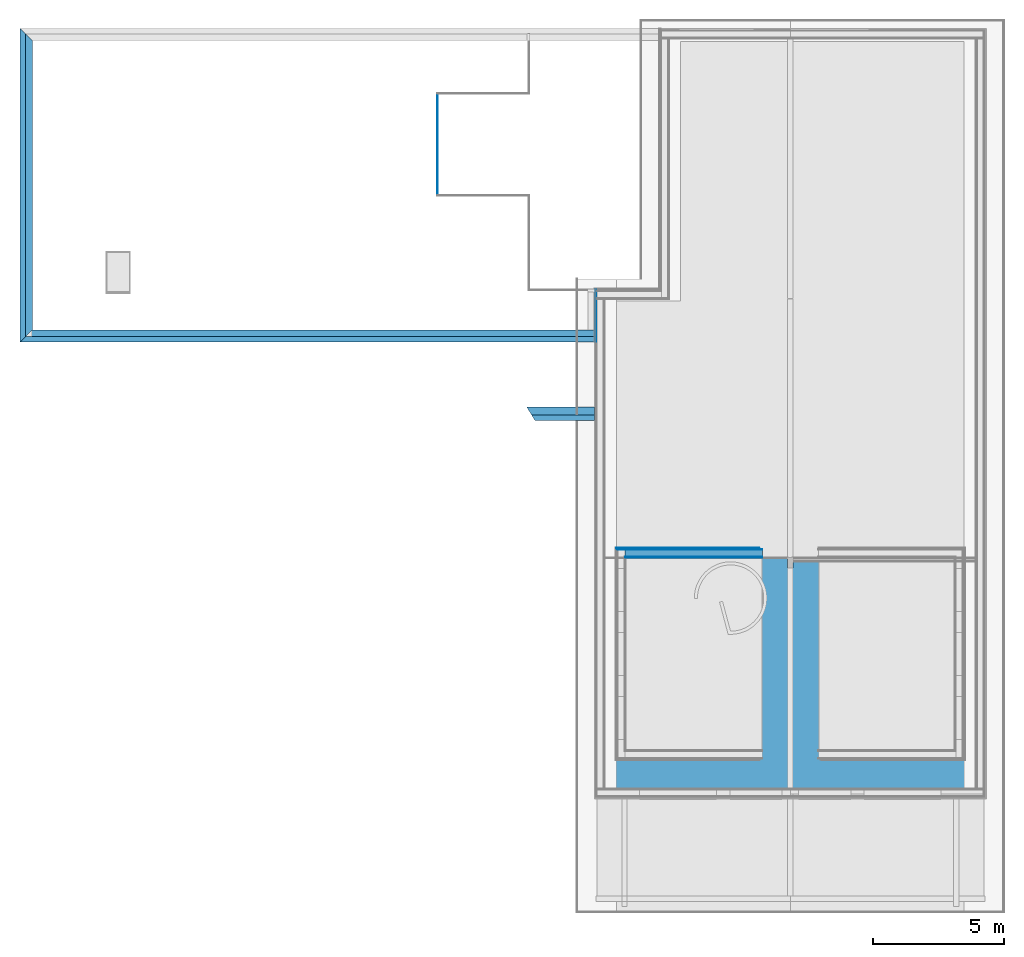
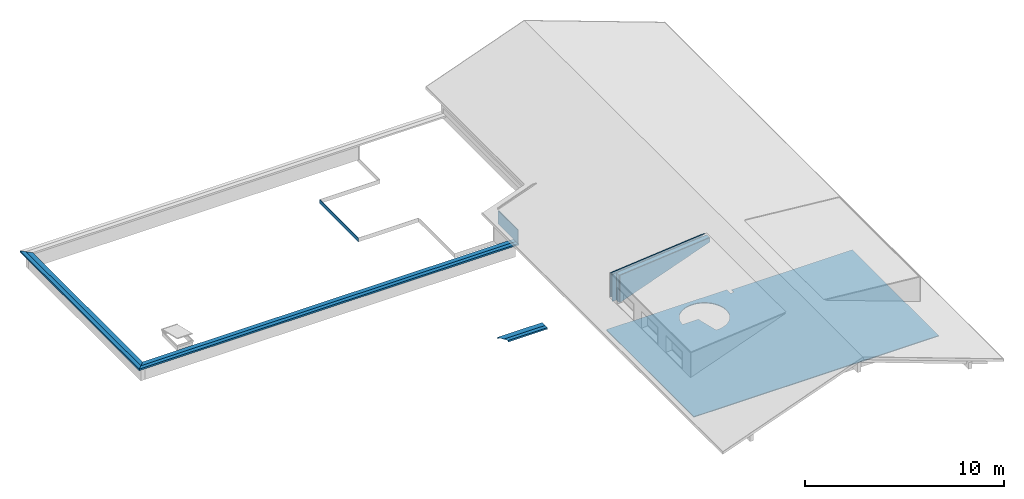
# One storey, part 5 of 12: 17 building element parts, 1 discrete accessory, 7 elements without a shape of their own.
"""IFC4 building model written with IfcOpenShell, lengths in millimetres."""

from ifc_helpers import new_model, entity, si_unit, converted_unit, derived_unit, direction, frame, origin_with_axes, place, context, subcontext, project, spatial, polygons, material, type_object, element, aggregate, save


model = new_model("IFC4")

# Units and contexts
model_context = context("Model", 3, precision=0.01, world=origin_with_axes(), true_north=direction((0.0, 1.0)))
body_context = subcontext(model_context, "Body", "Model", "MODEL_VIEW")
ifc_project = project(units=[si_unit("LENGTHUNIT", "METRE", prefix="MILLI"), si_unit("AREAUNIT", "SQUARE_METRE"), si_unit("VOLUMEUNIT", "CUBIC_METRE"), converted_unit("PLANEANGLEUNIT", "DEGREE", entity("IfcPlaneAngleMeasure", 0.0174532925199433), si_unit("PLANEANGLEUNIT", "RADIAN"), dimensions=[0, 0, 0, 0, 0, 0, 0]), converted_unit("TIMEUNIT", "Year", entity("IfcTimeMeasure", 31557600.0), si_unit("TIMEUNIT", "SECOND"), dimensions=[0, 0, 1, 0, 0, 0, 0]), si_unit("MASSUNIT", "GRAM", prefix="KILO"), si_unit("THERMODYNAMICTEMPERATUREUNIT", "DEGREE_CELSIUS"), si_unit("LUMINOUSINTENSITYUNIT", "LUMEN"), si_unit("ENERGYUNIT", "JOULE", prefix="MEGA"), derived_unit("THERMALCONDUCTANCEUNIT", [(si_unit("POWERUNIT", "WATT"), 1), (si_unit("LENGTHUNIT", "METRE"), -1), (si_unit("THERMODYNAMICTEMPERATUREUNIT", "KELVIN"), -1)]), derived_unit("SPECIFICHEATCAPACITYUNIT", [(si_unit("ENERGYUNIT", "JOULE"), 1), (si_unit("MASSUNIT", "GRAM", prefix="KILO"), -1), (si_unit("THERMODYNAMICTEMPERATUREUNIT", "KELVIN"), -1)]), derived_unit("MASSDENSITYUNIT", [(si_unit("MASSUNIT", "GRAM", prefix="KILO"), 1), (si_unit("VOLUMEUNIT", "CUBIC_METRE"), -1)])], contexts=[model_context])

# Site, building, storey
site_placement = place(None, origin_with_axes())
site = spatial("IfcSite", under=ifc_project, at=site_placement, Name="Gelände", CompositionType="ELEMENT")
building_placement = place(site_placement, origin_with_axes())
building = spatial("IfcBuilding", under=site, at=building_placement, Name="Gebäude", CompositionType="ELEMENT")
storey_placement = place(building_placement, frame((0.0, 0.0, 11600.0), z_axis=(0.0, 0.0, 1.0), x_axis=(1.0, 0.0, 0.0)))
storey = spatial("IfcBuildingStorey", under=building, at=storey_placement, Name="Dachaufsicht", CompositionType="ELEMENT", Elevation=11600.0)

# Discrete accessory
ifc_material_1 = material(Name="Bewehrung")
discrete_accessory_type = type_object("IfcDiscreteAccessoryType", Name="Bewehrung 20 x 250", PredefinedType="NOTDEFINED")
discrete_accessory_placement = place(storey_placement, frame((11928.99744477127, 35447.5972813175, -5.198845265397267e-05), z_axis=(0.0, 0.0, 1.0), x_axis=(-1.0, 0.0, 0.0)))
element("IfcDiscreteAccessory", 1, at=discrete_accessory_placement, inside=storey, type_object=discrete_accessory_type, material=ifc_material_1, Name="Unterzug-029", PredefinedType="NOTDEFINED", context=body_context, shape_type="Tessellation", body=[
    polygons([(0.0, 3875.000000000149, -250.0), (19.99999999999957, 3895.000000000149, -250.0), (19.99999999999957, -20.00000000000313, -250.0), (0.0, 0.0, -250.0), (0.0, 3875.000000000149, 0.0), (19.99999999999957, 3895.000000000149, 0.0), (19.99999999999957, -20.00000000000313, 0.0), (0.0, 0.0, 0.0)], [[[1, 2, 3, 4]], [[1, 5, 6, 2]], [[2, 6, 7, 3]], [[4, 3, 7, 8]], [[5, 1, 4, 8]], [[6, 5, 8, 7]]], closed=True),
])

# Curtain wall, building element parts
curtain_wall_type = type_object("IfcCurtainWallType", Name="Fassade Typ 02 - Vertikale Schalung 71", PredefinedType="NOTDEFINED")
curtain_wall_1_placement = place(storey_placement, frame((17928.99744477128, 27978.59728131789, 930.9999999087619), z_axis=(0.0, 0.0, 1.0), x_axis=(0.0, -1.0, 0.0)))
curtain_wall_1 = element("IfcCurtainWall", 2, at=curtain_wall_1_placement, inside=storey, type_object=curtain_wall_type, Name="Wand-014", PredefinedType="NOTDEFINED")
ifc_material_2 = material(Name="Lattenrost vertikal")
building_element_part_1_placement = place(curtain_wall_1_placement, origin_with_axes())
building_element_part_1 = element("IfcBuildingElementPart", 3, at=building_element_part_1_placement, material=ifc_material_2, Name="Lattenrost vertikal", PredefinedType="NOTDEFINED", context=body_context, shape_type="Tessellation", body=[
    polygons([(2031.000540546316, 71.00000000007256, 2.526755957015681), (1568.300450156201, 70.99999999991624, 2.526757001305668), (1568.30044909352, 70.99999999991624, 0.0), (46.00000000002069, 71.0000000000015, 0.0), (46.00000000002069, 71.0000000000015, 822.7169542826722), (2031.000540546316, 71.0000000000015, 822.7169542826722), (2031.000540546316, 45.99999999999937, 2.526755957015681), (1568.300450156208, 45.99999999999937, 2.526757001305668), (1568.300449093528, 45.99999999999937, 0.0), (46.00000000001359, 45.99999999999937, 0.0), (46.00000000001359, 45.99999999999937, 822.7169542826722), (2031.000540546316, 45.99999999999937, 822.7169542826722)], [[[1, 2, 3, 4, 5, 6]], [[2, 1, 7, 8]], [[3, 2, 8, 9]], [[3, 9, 10, 4]], [[5, 4, 10, 11]], [[11, 12, 6, 5]], [[7, 1, 6, 12]], [[7, 12, 11, 10, 9, 8]]], closed=True),
])
ifc_material_3 = material(Name="Lattenrost horizontal")
building_element_part_2_placement = place(curtain_wall_1_placement, origin_with_axes())
building_element_part_2 = element("IfcBuildingElementPart", 4, at=building_element_part_2_placement, material=ifc_material_3, Name="Lattenrost horizontal", PredefinedType="NOTDEFINED", context=body_context, shape_type="Tessellation", body=[
    polygons([(2031.000540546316, 45.99999999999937, 2.526755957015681), (1568.300450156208, 45.99999999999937, 2.526757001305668), (1568.300449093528, 45.99999999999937, 0.0), (31.00000000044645, 45.99999999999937, 0.0), (31.00000000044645, 45.99999999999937, 321.0000000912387), (21.00000000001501, 45.99999999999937, 321.0000000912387), (21.00000000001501, 45.99999999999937, 822.7169542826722), (2031.000540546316, 45.99999999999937, 822.7169542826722), (2031.000540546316, 21.0000000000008, 2.526755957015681), (1568.300450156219, 21.0000000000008, 2.526757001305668), (1568.300449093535, 21.0000000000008, 0.0), (31.00000000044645, 21.0000000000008, 0.0), (31.00000000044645, 21.0000000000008, 321.0000000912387), (21.0000000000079, 21.0000000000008, 321.0000000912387), (21.0000000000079, 21.0000000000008, 822.7169542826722), (2031.000540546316, 21.0000000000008, 822.7169542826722)], [[[1, 2, 3, 4, 5, 6, 7, 8]], [[2, 1, 9, 10]], [[3, 2, 10, 11]], [[3, 11, 12, 4]], [[12, 13, 5, 4]], [[13, 14, 6, 5]], [[7, 6, 14, 15]], [[7, 15, 16, 8]], [[9, 1, 8, 16]], [[9, 16, 15, 14, 13, 12, 11, 10]]], closed=True),
])
aggregate(curtain_wall_1, [building_element_part_1, building_element_part_2])

# Covering, building element part
covering_type_1 = type_object("IfcCoveringType", Name="Bodenaufbau Typ 01 150", PredefinedType="NOTDEFINED")
covering_1_placement = place(storey_placement, frame((18307.99744477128, 8826.597281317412, 500.0), z_axis=(0.0, 0.0, 1.0), x_axis=(1.0, 0.0, 0.0)))
covering_1 = element("IfcCovering", 5, at=covering_1_placement, inside=storey, type_object=covering_type_1, Name="Decke-007", PredefinedType="NOTDEFINED")
ifc_material_4 = material(Name="Dämmung Innen")
building_element_part_3_placement = place(covering_1_placement, origin_with_axes())
building_element_part_3 = element("IfcBuildingElementPart", 6, at=building_element_part_3_placement, material=ifc_material_4, Name="Dämmung Innen", PredefinedType="NOTDEFINED", context=body_context, shape_type="Tessellation", body=[
    polygons([(0.0, 0.0, 50.00000000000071), (0.0, 0.0, 0.0), (14242.00000000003, 0.0, 0.0), (14242.00000000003, 0.0, 50.00000000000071), (0.0, 8836.072831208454, 50.00000000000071), (0.0, 8836.072831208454, 0.0), (7020.999999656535, 8836.072831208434, 0.0), (7020.999999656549, 8463.072831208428, 0.0), (7220.999999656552, 8463.072831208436, 0.0), (7220.999999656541, 8709.072831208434, 0.0), (14242.00000000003, 8709.072831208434, 0.0), (3568.77983396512, 7423.44193809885, 0.0), (3564.946498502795, 7309.61503117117, 0.0), (4480.042552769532, 7309.615031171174, 0.0), (4489.403418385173, 7231.694575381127, 0.0), (4772.188113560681, 6042.932944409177, 0.0), (4829.074871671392, 6040.179408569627, 0.0), (4942.884019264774, 6044.893086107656, 0.0), (5055.812473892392, 6059.789561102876, 0.0), (5166.951002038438, 6084.74889589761, 0.0), (5275.404781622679, 6119.570132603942, 0.0), (5380.300606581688, 6163.972911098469, 0.0), (5480.79391741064, 6217.599726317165, 0.0), (5576.075601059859, 6280.018806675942, 0.0), (5665.378505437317, 6350.727590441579, 0.0), (5747.983616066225, 6429.156772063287, 0.0), (5823.225845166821, 6514.674885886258, 0.0), (5890.499386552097, 6606.593390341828, 0.0), (5949.262593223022, 6704.172211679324, 0.0), (5999.04233839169, 6806.625702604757, 0.0), (6039.437824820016, 6913.12896785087, 0.0), (6070.123811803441, 7022.82450574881, 0.0), (6090.853233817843, 7134.829112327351, 0.0), (6101.459189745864, 7248.240992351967, 0.0), (6101.856286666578, 7362.147020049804, 0.0), (6092.041327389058, 7475.6300910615, 0.0), (6072.093336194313, 7587.776506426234, 0.0), (6042.172922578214, 7697.683329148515, 0.0), (6002.520988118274, 7804.465654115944, 0.0), (5953.456786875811, 7907.263732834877, 0.0), (5895.375354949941, 8005.249895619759, 0.0), (5828.744329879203, 8097.635215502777, 0.0), (5754.100185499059, 8183.675860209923, 0.0), (5672.043912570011, 8262.679081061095, 0.0), (5583.236179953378, 8334.00879057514, 0.0), (5488.392015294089, 8397.090683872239, 0.0), (5388.275048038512, 8451.416862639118, 0.0), (5283.691361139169, 8496.549924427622, 0.0), (5175.483000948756, 8532.126484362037, 0.0), (5064.521197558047, 8557.86010090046, 0.0), (4951.699350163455, 8573.543582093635, 0.0), (4833.500352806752, 8577.78012279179, 0.0), (4833.500352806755, 8578.168885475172, 0.0), (4776.529533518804, 8578.168885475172, 0.0), (4663.046590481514, 8567.955235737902, 0.0), (4550.936040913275, 8547.610170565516, 0.0), (4441.100533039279, 8517.297496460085, 0.0), (4334.424397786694, 8477.261273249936, 0.0), (4231.766528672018, 8427.823849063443, 0.0), (4133.95346649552, 8369.383264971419, 0.0), (4041.772744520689, 8302.410050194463, 0.0), (3955.966547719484, 8227.443433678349, 0.0), (3877.225737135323, 8145.087002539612, 0.0), (3806.184287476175, 8056.003842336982, 0.0), (3743.414182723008, 7960.911198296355, 0.0), (3689.420810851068, 7860.574700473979, 0.0), (3644.638894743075, 7755.802199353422, 0.0), (3609.428992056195, 7647.437261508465, 0.0), (3584.074592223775, 7536.352377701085, 0.0), (14242.00000000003, 8709.072831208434, 50.00000000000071), (7220.999999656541, 8709.072831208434, 50.00000000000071), (7220.999999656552, 8463.072831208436, 50.00000000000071), (7020.999999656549, 8463.072831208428, 50.00000000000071), (7020.999999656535, 8836.072831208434, 50.00000000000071), (4480.042552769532, 7309.615031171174, 50.00000000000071), (3564.946498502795, 7309.61503117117, 50.00000000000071), (3568.77983396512, 7423.44193809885, 50.00000000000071), (3584.074592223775, 7536.352377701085, 50.00000000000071), (3609.428992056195, 7647.437261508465, 50.00000000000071), (3644.638894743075, 7755.802199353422, 50.00000000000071), (3689.420810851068, 7860.574700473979, 50.00000000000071), (3743.414182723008, 7960.911198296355, 50.00000000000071), (3806.184287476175, 8056.003842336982, 50.00000000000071), (3877.225737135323, 8145.087002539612, 50.00000000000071), (3955.966547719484, 8227.443433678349, 50.00000000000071), (4041.772744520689, 8302.410050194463, 50.00000000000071), (4133.95346649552, 8369.383264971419, 50.00000000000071), (4231.766528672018, 8427.823849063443, 50.00000000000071), (4334.424397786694, 8477.261273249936, 50.00000000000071), (4441.100533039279, 8517.297496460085, 50.00000000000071), (4550.936040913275, 8547.610170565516, 50.00000000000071), (4663.046590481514, 8567.955235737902, 50.00000000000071), (4776.529533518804, 8578.168885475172, 50.00000000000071), (4833.500352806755, 8578.168885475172, 50.00000000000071), (4833.500352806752, 8577.78012279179, 50.00000000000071), (4951.699350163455, 8573.543582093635, 50.00000000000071), (5064.521197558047, 8557.86010090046, 50.00000000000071), (5175.483000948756, 8532.126484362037, 50.00000000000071), (5283.691361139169, 8496.549924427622, 50.00000000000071), (5388.275048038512, 8451.416862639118, 50.00000000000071), (5488.392015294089, 8397.090683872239, 50.00000000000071), (5583.236179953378, 8334.00879057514, 50.00000000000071), (5672.043912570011, 8262.679081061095, 50.00000000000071), (5754.100185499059, 8183.675860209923, 50.00000000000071), (5828.744329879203, 8097.635215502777, 50.00000000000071), (5895.375354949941, 8005.249895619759, 50.00000000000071), (5953.456786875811, 7907.263732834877, 50.00000000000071), (6002.520988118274, 7804.465654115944, 50.00000000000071), (6042.172922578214, 7697.683329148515, 50.00000000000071), (6072.093336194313, 7587.776506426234, 50.00000000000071), (6092.041327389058, 7475.6300910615, 50.00000000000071), (6101.856286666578, 7362.147020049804, 50.00000000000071), (6101.459189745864, 7248.240992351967, 50.00000000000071), (6090.853233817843, 7134.829112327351, 50.00000000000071), (6070.123811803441, 7022.82450574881, 50.00000000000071), (6039.437824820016, 6913.12896785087, 50.00000000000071), (5999.04233839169, 6806.625702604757, 50.00000000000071), (5949.262593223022, 6704.172211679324, 50.00000000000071), (5890.499386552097, 6606.593390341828, 50.00000000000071), (5823.225845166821, 6514.674885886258, 50.00000000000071), (5747.983616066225, 6429.156772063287, 50.00000000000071), (5665.378505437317, 6350.727590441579, 50.00000000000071), (5576.075601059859, 6280.018806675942, 50.00000000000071), (5480.79391741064, 6217.599726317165, 50.00000000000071), (5380.300606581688, 6163.972911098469, 50.00000000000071), (5275.404781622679, 6119.570132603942, 50.00000000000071), (5166.951002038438, 6084.74889589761, 50.00000000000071), (5055.812473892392, 6059.789561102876, 50.00000000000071), (4942.884019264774, 6044.893086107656, 50.00000000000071), (4829.074871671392, 6040.179408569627, 50.00000000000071), (4772.188113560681, 6042.932944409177, 50.00000000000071), (4489.403418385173, 7231.694575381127, 50.00000000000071)], [[[1, 2, 3, 4]], [[5, 6, 2, 1]], [[3, 2, 6, 7, 8, 9, 10, 11], [12, 13, 14, 15, 16, 17, 18, 19, 20, 21, 22, 23, 24, 25, 26, 27, 28, 29, 30, 31, 32, 33, 34, 35, 36, 37, 38, 39, 40, 41, 42, 43, 44, 45, 46, 47, 48, 49, 50, 51, 52, 53, 54, 55, 56, 57, 58, 59, 60, 61, 62, 63, 64, 65, 66, 67, 68, 69]], [[4, 3, 11, 70]], [[5, 1, 4, 70, 71, 72, 73, 74], [75, 76, 77, 78, 79, 80, 81, 82, 83, 84, 85, 86, 87, 88, 89, 90, 91, 92, 93, 94, 95, 96, 97, 98, 99, 100, 101, 102, 103, 104, 105, 106, 107, 108, 109, 110, 111, 112, 113, 114, 115, 116, 117, 118, 119, 120, 121, 122, 123, 124, 125, 126, 127, 128, 129, 130, 131, 132]], [[74, 7, 6, 5]], [[73, 8, 7, 74]], [[72, 9, 8, 73]], [[71, 10, 9, 72]], [[70, 11, 10, 71]], [[76, 13, 12, 77]], [[75, 14, 13, 76]], [[132, 15, 14, 75]], [[131, 16, 15, 132]], [[130, 17, 16, 131]], [[129, 18, 17, 130]], [[128, 19, 18, 129]], [[127, 20, 19, 128]], [[126, 21, 20, 127]], [[125, 22, 21, 126]], [[124, 23, 22, 125]], [[123, 24, 23, 124]], [[122, 25, 24, 123]], [[121, 26, 25, 122]], [[120, 27, 26, 121]], [[119, 28, 27, 120]], [[118, 29, 28, 119]], [[117, 30, 29, 118]], [[116, 31, 30, 117]], [[115, 32, 31, 116]], [[114, 33, 32, 115]], [[113, 34, 33, 114]], [[112, 35, 34, 113]], [[111, 36, 35, 112]], [[110, 37, 36, 111]], [[109, 38, 37, 110]], [[108, 39, 38, 109]], [[107, 40, 39, 108]], [[106, 41, 40, 107]], [[105, 42, 41, 106]], [[104, 43, 42, 105]], [[103, 44, 43, 104]], [[102, 45, 44, 103]], [[101, 46, 45, 102]], [[100, 47, 46, 101]], [[99, 48, 47, 100]], [[98, 49, 48, 99]], [[97, 50, 49, 98]], [[96, 51, 50, 97]], [[95, 52, 51, 96]], [[94, 53, 52, 95]], [[93, 54, 53, 94]], [[92, 55, 54, 93]], [[91, 56, 55, 92]], [[90, 57, 56, 91]], [[89, 58, 57, 90]], [[88, 59, 58, 89]], [[87, 60, 59, 88]], [[86, 61, 60, 87]], [[85, 62, 61, 86]], [[84, 63, 62, 85]], [[83, 64, 63, 84]], [[82, 65, 64, 83]], [[81, 66, 65, 82]], [[80, 67, 66, 81]], [[79, 68, 67, 80]], [[78, 69, 68, 79]], [[77, 12, 69, 78]]], closed=True),
])
aggregate(covering_1, [building_element_part_3])

# Curtain wall, building element part
curtain_wall_2_placement = place(storey_placement, frame((18736.99744477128, 18068.67011252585, 2143.030768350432), z_axis=(0.0, 0.0, 1.0), x_axis=(1.0, 0.0, 0.0)))
curtain_wall_2 = element("IfcCurtainWall", 7, at=curtain_wall_2_placement, inside=storey, type_object=curtain_wall_type, Name="Wand-014", PredefinedType="NOTDEFINED")
ifc_material_5 = material(Name="Falzschalung vertikal")
building_element_part_4_placement = place(curtain_wall_2_placement, origin_with_axes())
building_element_part_4 = element("IfcBuildingElementPart", 8, at=building_element_part_4_placement, material=ifc_material_5, Name="Falzschalung vertikal", PredefinedType="NOTDEFINED", context=body_context, shape_type="Tessellation", body=[
    polygons([(21.0000000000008, -21.00000288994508, 1505.829562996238), (21.0000000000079, -20.99999999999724, 0.0), (5527.456537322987, -21.00000003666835, 2004.186275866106), (5322.667158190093, -21.00000014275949, 2004.186275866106), (21.0000000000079, 0.0, 0.0), (21.0000000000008, 0.0, 1505.829562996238), (5527.456537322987, -1.677236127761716e-08, 2004.186275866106), (5322.667158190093, -6.529887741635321e-08, 2004.186275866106)], [[[1, 2, 3, 4]], [[5, 2, 1, 6]], [[2, 5, 7, 3]], [[8, 4, 3, 7]], [[8, 6, 1, 4]], [[5, 6, 8, 7]]], closed=True),
])

# Wall, building element parts
wall_type = type_object("IfcWallType", Name="Aussenwand Typ 01 318", PredefinedType="NOTDEFINED")
wall_placement = place(storey_placement, frame((18807.99744477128, 17997.67011252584, 1895.271674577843), z_axis=(0.0, 0.0, 1.0), x_axis=(1.0, 0.0, 0.0)))
wall = element("IfcWall", 9, at=wall_placement, inside=storey, type_object=wall_type, Name="Wand-014", PredefinedType="NOTDEFINED")
ifc_material_6 = material(Name="Grobspanplatte-OSB")
building_element_part_5_placement = place(wall_placement, origin_with_axes())
building_element_part_5 = element("IfcBuildingElementPart", 10, at=building_element_part_5_placement, material=ifc_material_6, Name="Grobspanplatte-OSB", PredefinedType="NOTDEFINED", context=body_context, shape_type="Tessellation", body=[
    polygons([(17.99999997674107, 3.421959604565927e-06, 1659.539828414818), (5527.237092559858, 3.475136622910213e-06, 2177.408115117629), (5527.237092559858, 3.844036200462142e-09, 2179.750882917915), (5549.900825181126, 0.0, 2179.750882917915), (5549.900825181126, 0.0, 1918.81497836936), (277.9999999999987, 1.75926828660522e-07, 0.0), (17.99999856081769, 1.846025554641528e-07, 0.0), (17.99999997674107, -18.00000000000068, 1659.539828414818), (5527.237092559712, -18.00000000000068, 2177.408115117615), (5527.237092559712, -18.00000000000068, 2179.750882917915), (5549.900825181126, -18.00000000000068, 2179.750882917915), (5549.900825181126, -18.00000000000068, 1918.81497836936), (277.9999999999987, -18.00000000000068, 0.0), (17.99999856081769, -18.00000000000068, 0.0)], [[[1, 2, 3, 4, 5, 6, 7]], [[2, 1, 8, 9]], [[10, 3, 2, 9]], [[3, 10, 11, 4]], [[4, 11, 12, 5]], [[12, 13, 6, 5]], [[7, 6, 13, 14]], [[8, 1, 7, 14]], [[9, 8, 14, 13, 12, 11, 10]]], closed=True),
])
ifc_material_7 = material(Name="Ständer Konstruktion gedämmt")
building_element_part_6_placement = place(wall_placement, origin_with_axes())
building_element_part_6 = element("IfcBuildingElementPart", 11, at=building_element_part_6_placement, material=ifc_material_7, Name="Ständer Konstruktion gedämmt", PredefinedType="NOTDEFINED", context=body_context, shape_type="Tessellation", body=[
    polygons([(278.0000000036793, -18.00000000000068, 1683.979828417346), (5527.237092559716, -18.00000000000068, 2177.408115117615), (5527.237092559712, -18.00000000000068, 2179.750882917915), (5549.900825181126, -18.00000000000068, 2179.750882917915), (5549.900825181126, -18.00000000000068, 1918.81497836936), (278.0000022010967, -18.00000000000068, 0.0), (278.0000000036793, -277.9999999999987, 1683.979828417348), (5527.237092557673, -277.9999999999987, 2177.408115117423), (5527.237092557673, -277.9999999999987, 2179.750882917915), (5549.900825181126, -277.9999999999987, 2179.750882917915), (5549.900825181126, -277.9999999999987, 1918.81497836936), (278.0000022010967, -277.9999999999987, 0.0)], [[[1, 2, 3, 4, 5, 6]], [[2, 1, 7, 8]], [[9, 3, 2, 8]], [[3, 9, 10, 4]], [[4, 10, 11, 5]], [[11, 12, 6, 5]], [[7, 1, 6, 12]], [[8, 7, 12, 11, 10, 9]]], closed=True),
])
ifc_material_8 = material(Name="Gipsfaserplatte GFP")
building_element_part_7_placement = place(wall_placement, origin_with_axes())
building_element_part_7 = element("IfcBuildingElementPart", 12, at=building_element_part_7_placement, material=ifc_material_8, Name="Gipsfaserplatte GFP", PredefinedType="NOTDEFINED", context=body_context, shape_type="Tessellation", body=[
    polygons([(292.9999999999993, -277.9999999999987, 1685.38982841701), (5527.237092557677, -277.9999999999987, 2177.408115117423), (5527.237092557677, -277.9999999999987, 2179.750882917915), (5549.900825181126, -277.9999999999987, 2179.750882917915), (5549.900825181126, -277.9999999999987, 1918.81497836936), (292.9999999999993, -277.9999999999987, 5.459553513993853), (292.9999999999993, -292.9999999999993, 1685.38982841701), (5527.237092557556, -292.9999999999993, 2177.40811511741), (5527.237092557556, -292.9999999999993, 2179.750882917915), (5549.900825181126, -292.9999999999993, 2179.750882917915), (5549.900825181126, -292.9999999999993, 1918.81497836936), (292.9999999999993, -292.9999999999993, 5.459553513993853)], [[[1, 2, 3, 4, 5, 6]], [[2, 1, 7, 8]], [[9, 3, 2, 8]], [[3, 9, 10, 4]], [[4, 10, 11, 5]], [[11, 12, 6, 5]], [[7, 1, 6, 12]], [[8, 7, 12, 11, 10, 9]]], closed=True),
])

# Building element part
building_element_part_8_placement = place(curtain_wall_2_placement, origin_with_axes())
building_element_part_8 = element("IfcBuildingElementPart", 13, at=building_element_part_8_placement, material=ifc_material_2, Name="Lattenrost vertikal", PredefinedType="NOTDEFINED", context=body_context, shape_type="Tessellation", body=[
    polygons([(5322.667158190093, -45.99999989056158, 2004.186275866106), (5527.456537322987, -45.9999999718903, 2004.186275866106), (71.0000000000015, -45.99999997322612, 18.19851171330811), (71.0000000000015, -45.9999977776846, 1510.529562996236), (5322.667158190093, -70.99999999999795, 2004.186275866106), (5527.456537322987, -70.99999999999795, 2004.186275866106), (71.0000000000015, -71.0000000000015, 18.19851171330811), (71.0000000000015, -71.0000000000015, 1510.529562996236)], [[[1, 2, 3, 4]], [[2, 1, 5, 6]], [[2, 6, 7, 3]], [[4, 3, 7, 8]], [[1, 4, 8, 5]], [[8, 7, 6, 5]]], closed=True),
])

building_element_part_9_placement = place(wall_placement, origin_with_axes())
building_element_part_9 = element("IfcBuildingElementPart", 14, at=building_element_part_9_placement, material=ifc_material_8, Name="Gipsfaserplatte GFP", PredefinedType="NOTDEFINED", context=body_context, shape_type="Tessellation", body=[
    polygons([(307.9999999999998, -292.9999999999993, 1686.79982841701), (5527.23709255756, -292.9999999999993, 2177.408115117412), (5527.237092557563, -292.9999999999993, 2179.750882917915), (5549.900825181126, -292.9999999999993, 2179.750882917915), (5549.900825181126, -292.9999999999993, 1918.81497836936), (307.9999983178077, -292.9999999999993, 10.91910641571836), (307.9999999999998, -307.9999999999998, 1686.79982841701), (5527.237092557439, -307.9999999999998, 2177.4081151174), (5527.237092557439, -307.9999999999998, 2179.750882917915), (5549.900825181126, -307.9999999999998, 2179.750882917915), (5549.900825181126, -307.9999999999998, 1918.81497836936), (307.9999983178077, -307.9999999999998, 10.91910641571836)], [[[1, 2, 3, 4, 5, 6]], [[2, 1, 7, 8]], [[9, 3, 2, 8]], [[3, 9, 10, 4]], [[4, 10, 11, 5]], [[11, 12, 6, 5]], [[7, 1, 6, 12]], [[8, 7, 12, 11, 10, 9]]], closed=True),
])

building_element_part_10_placement = place(curtain_wall_2_placement, origin_with_axes())
building_element_part_10 = element("IfcBuildingElementPart", 15, at=building_element_part_10_placement, material=ifc_material_3, Name="Lattenrost horizontal", PredefinedType="NOTDEFINED", context=body_context, shape_type="Tessellation", body=[
    polygons([(5322.667158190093, -21.00000014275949, 2004.186275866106), (5527.456537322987, -21.00000003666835, 2004.186275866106), (45.99999999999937, -21.00000001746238, 9.099255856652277), (45.99999999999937, -21.00000289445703, 1508.179562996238), (5322.667158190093, -45.99999989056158, 2004.186275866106), (5527.456537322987, -45.9999999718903, 2004.186275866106), (45.99999999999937, -45.9999999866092, 9.099255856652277), (45.99999999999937, -45.99999778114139, 1508.179562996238)], [[[1, 2, 3, 4]], [[2, 1, 5, 6]], [[2, 6, 7, 3]], [[4, 3, 7, 8]], [[1, 4, 8, 5]], [[8, 7, 6, 5]]], closed=True),
])

aggregate(curtain_wall_2, [building_element_part_4, building_element_part_8, building_element_part_10])

ifc_material_9 = material(Name="Verputz Innen")
building_element_part_11_placement = place(wall_placement, origin_with_axes())
building_element_part_11 = element("IfcBuildingElementPart", 16, at=building_element_part_11_placement, material=ifc_material_9, Name="Verputz Innen", PredefinedType="NOTDEFINED", context=body_context, shape_type="Tessellation", body=[
    polygons([(308.000000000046, -307.9999999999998, 1686.799828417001), (5527.237092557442, -307.9999999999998, 2177.408115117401), (5527.237092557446, -307.9999999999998, 2179.750882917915), (5549.900825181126, -307.9999999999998, 2179.750882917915), (5549.900825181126, -307.9999999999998, 1918.81497836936), (318.0000000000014, -307.9999999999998, 14.55880937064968), (318.0000000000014, -307.9999999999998, 1686.799828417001), (308.000000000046, -318.0000000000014, 1686.799828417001), (5527.23709255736, -318.0000000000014, 2177.408115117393), (5527.23709255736, -317.9999999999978, 2179.750882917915), (5549.900825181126, -317.9999999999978, 2179.750882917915), (5549.900825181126, -317.9999999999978, 1918.81497836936), (318.0000000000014, -317.9999999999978, 14.55880937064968), (318.0000000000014, -318.0000000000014, 1686.799828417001)], [[[1, 2, 3, 4, 5, 6, 7]], [[2, 1, 8, 9]], [[10, 3, 2, 9]], [[3, 10, 11, 4]], [[4, 11, 12, 5]], [[12, 13, 6, 5]], [[6, 13, 14, 7]], [[8, 1, 7, 14]], [[9, 8, 14, 13, 12, 11, 10]]], closed=True),
])

aggregate(wall, [building_element_part_5, building_element_part_6, building_element_part_7, building_element_part_9, building_element_part_11])

# Covering, building element parts
covering_type_2 = type_object("IfcCoveringType", Name="Brüstungsabdeckung 03 520 x 100", PredefinedType="NOTDEFINED")
covering_2_placement = place(storey_placement, frame((15637.99581849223, 23157.59674077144, -2400.0), z_axis=(0.0, 0.0, 1.0), x_axis=(0.0, -1.0, 0.0)))
covering_2 = element("IfcCovering", 17, at=covering_2_placement, inside=storey, type_object=covering_type_2, Name="Unterzug-027", PredefinedType="NOTDEFINED")
ifc_material_10 = material(Name="Stahl")
building_element_part_12_placement = place(covering_2_placement, origin_with_axes())
building_element_part_12 = element("IfcBuildingElementPart", 18, at=building_element_part_12_placement, material=ifc_material_10, Name="Stahl", PredefinedType="NOTDEFINED", context=body_context, shape_type="Tessellation", body=[
    polygons([(-302.7000859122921, 2291.00162627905, 2.52675365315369), (-302.7001324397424, 2291.00162627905, -97.47324404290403), (-302.7001324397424, -307.7001324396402, -97.47324404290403), (-302.7000859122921, -307.7001042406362, 2.52675365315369), (3.650377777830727e-06, 2291.001626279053, 2.52675365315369), (3.650377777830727e-06, 2291.001626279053, 2.947368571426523e-06), (-299.9999971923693, 2291.001626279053, 2.947368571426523e-06), (-300.0000824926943, 2291.001626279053, -97.47324404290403), (-300.0000824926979, -306.0637066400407, -97.47324404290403), (-299.9999971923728, -306.0636549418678, 2.947368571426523e-06), (3.650377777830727e-06, -124.2419290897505, 2.947368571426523e-06), (3.650377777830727e-06, -124.2419290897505, 2.52675365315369)], [[[1, 2, 3, 4]], [[1, 5, 6, 7, 8, 2]], [[2, 8, 9, 3]], [[4, 3, 9, 10, 11, 12]], [[5, 1, 4, 12]], [[6, 5, 12, 11]], [[7, 6, 11, 10]], [[8, 7, 10, 9]]], closed=True),
])
building_element_part_13_placement = place(covering_2_placement, origin_with_axes())
building_element_part_13 = element("IfcBuildingElementPart", 19, at=building_element_part_13_placement, material=ifc_material_10, Name="Stahl", PredefinedType="NOTDEFINED", context=body_context, shape_type="Tessellation", body=[
    polygons([(0.0, 2291.001626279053, 2.526755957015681), (0.0, 2291.001626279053, 0.0), (0.0, -124.2419313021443, 0.0), (0.0, -124.2419313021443, 2.526755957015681), (217.7000878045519, 2291.00162627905, 2.526755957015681), (217.6999600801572, 2291.00162627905, -97.47324404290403), (214.9999138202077, 2291.00162627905, -97.47324404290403), (214.9999999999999, 2291.00162627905, 0.0), (214.9999999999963, 6.063638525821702, 0.0), (214.9999138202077, 6.063586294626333, -97.47324404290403), (217.6999600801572, 7.700009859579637, -97.47324404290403), (217.7000878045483, 7.700087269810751, 2.526755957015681)], [[[1, 2, 3, 4]], [[1, 5, 6, 7, 8, 2]], [[2, 8, 9, 3]], [[4, 3, 9, 10, 11, 12]], [[5, 1, 4, 12]], [[6, 5, 12, 11]], [[7, 6, 11, 10]], [[8, 7, 10, 9]]], closed=True),
])
aggregate(covering_2, [building_element_part_12, building_element_part_13])

covering_type_3 = type_object("IfcCoveringType", Name="Brüstungsabdeckung 02 470 x 100", PredefinedType="NOTDEFINED")
covering_3_placement = place(storey_placement, frame((-3861.004181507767, 26157.59674077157, 930.9999999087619), z_axis=(0.0, 0.0, 1.0), x_axis=(1.0, 0.0, 0.0)))
covering_3 = element("IfcCovering", 20, at=covering_3_placement, inside=storey, type_object=covering_type_3, Name="Unterzug-027", PredefinedType="NOTDEFINED")
building_element_part_14_placement = place(covering_3_placement, origin_with_axes())
building_element_part_14 = element("IfcBuildingElementPart", 21, at=building_element_part_14_placement, material=ifc_material_10, Name="Stahl", PredefinedType="NOTDEFINED", context=body_context, shape_type="Tessellation", body=[
    polygons([(1.106310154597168e-06, 11580.00053943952, 2.526757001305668), (1.106310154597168e-06, 11580.00053943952, 1.651894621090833e-06), (1.106310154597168e-06, 1.106315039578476e-06, 1.651894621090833e-06), (1.106310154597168e-06, 1.106315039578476e-06, 2.526757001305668), (252.7000903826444, 11327.30045016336, 2.526757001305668), (252.7001324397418, 11327.30040810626, -97.47324404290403), (250.0000878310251, 11330.00045271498, -97.47324404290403), (249.9999967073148, 11330.00054383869, 1.651894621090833e-06), (249.9999967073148, 249.9999967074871, 1.651894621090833e-06), (250.0000878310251, 250.0000878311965, -97.47324404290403), (252.7001324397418, 252.7001324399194, -97.47324404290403), (252.7000903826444, 252.7000903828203, 2.526757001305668)], [[[1, 2, 3, 4]], [[1, 5, 6, 7, 8, 2]], [[2, 8, 9, 3]], [[4, 3, 9, 10, 11, 12]], [[5, 1, 4, 12]], [[6, 5, 12, 11]], [[7, 6, 11, 10]], [[8, 7, 10, 9]]], closed=True),
])
building_element_part_15_placement = place(covering_3_placement, origin_with_axes())
building_element_part_15 = element("IfcBuildingElementPart", 22, at=building_element_part_15_placement, material=ifc_material_10, Name="Stahl", PredefinedType="NOTDEFINED", context=body_context, shape_type="Tessellation", body=[
    polygons([(-217.7000878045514, 11797.70062835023, 2.526755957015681), (-217.6999600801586, 11797.70050062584, -97.47324404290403), (-217.6999600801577, -217.6999600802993, -97.47324404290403), (-217.7000878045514, -217.7000878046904, 2.526755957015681), (0.0, 11580.00054054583, 2.526755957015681), (0.0, 11580.00054054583, 0.0), (-215.0000000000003, 11795.00054054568, 0.0), (-214.9999138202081, 11795.00045436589, -97.47324404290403), (-214.9999138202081, -214.9999138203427, -97.47324404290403), (-214.9999999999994, -215.0000000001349, 0.0), (0.0, 0.0, 0.0), (0.0, 0.0, 2.526755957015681)], [[[1, 2, 3, 4]], [[1, 5, 6, 7, 8, 2]], [[2, 8, 9, 3]], [[4, 3, 9, 10, 11, 12]], [[5, 1, 4, 12]], [[6, 5, 12, 11]], [[7, 6, 11, 10]], [[8, 7, 10, 9]]], closed=True),
])
aggregate(covering_3, [building_element_part_14, building_element_part_15])

covering_4_placement = place(storey_placement, frame((-3861.00418150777, 26157.59674077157, 930.9999999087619), z_axis=(0.0, 0.0, 1.0), x_axis=(0.0, -1.0, 0.0)))
covering_4 = element("IfcCovering", 23, at=covering_4_placement, inside=storey, type_object=covering_type_3, Name="Unterzug-027", PredefinedType="NOTDEFINED")
building_element_part_16_placement = place(covering_4_placement, origin_with_axes())
building_element_part_16 = element("IfcBuildingElementPart", 24, at=building_element_part_16_placement, material=ifc_material_10, Name="Stahl", PredefinedType="NOTDEFINED", context=body_context, shape_type="Tessellation", body=[
    polygons([(-252.7000903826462, 21861.00162627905, 2.526757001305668), (-252.7001324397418, 21861.00162627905, -97.47324404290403), (-252.7001324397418, 252.7001324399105, -97.47324404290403), (-252.7000903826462, 252.7000903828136, 2.526757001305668), (-1.106311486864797e-06, 21861.00162627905, 2.526757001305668), (-1.106311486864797e-06, 21861.00162627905, 1.651894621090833e-06), (-249.9999967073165, 21861.00162627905, 1.651894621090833e-06), (-250.000087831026, 21861.00162627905, -97.47324404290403), (-250.000087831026, 250.0000878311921, -97.47324404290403), (-249.999996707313, 249.9999967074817, 1.651894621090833e-06), (-1.106311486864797e-06, 1.106310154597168e-06, 1.651894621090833e-06), (-1.106311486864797e-06, 1.106310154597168e-06, 2.526757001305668)], [[[1, 2, 3, 4]], [[1, 5, 6, 7, 8, 2]], [[2, 8, 9, 3]], [[4, 3, 9, 10, 11, 12]], [[5, 1, 4, 12]], [[6, 5, 12, 11]], [[7, 6, 11, 10]], [[8, 7, 10, 9]]], closed=True),
])
building_element_part_17_placement = place(covering_4_placement, origin_with_axes())
building_element_part_17 = element("IfcBuildingElementPart", 25, at=building_element_part_17_placement, material=ifc_material_10, Name="Stahl", PredefinedType="NOTDEFINED", context=body_context, shape_type="Tessellation", body=[
    polygons([(0.0, 21861.00162627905, 2.526755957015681), (0.0, 21861.00162627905, 0.0), (0.0, 0.0, 0.0), (0.0, 0.0, 2.526755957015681), (217.7000878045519, 21861.00162627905, 2.526755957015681), (217.6999600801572, 21861.00162627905, -97.47324404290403), (214.9999138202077, 21861.00162627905, -97.47324404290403), (214.9999999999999, 21861.00162627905, 0.0), (214.9999999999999, -215.0000000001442, 0.0), (214.9999138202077, -214.999913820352, -97.47324404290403), (217.6999600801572, -217.6999600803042, -97.47324404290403), (217.7000878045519, -217.7000878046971, 2.526755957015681)], [[[1, 2, 3, 4]], [[1, 5, 6, 7, 8, 2]], [[2, 8, 9, 3]], [[4, 3, 9, 10, 11, 12]], [[5, 1, 4, 12]], [[6, 5, 12, 11]], [[7, 6, 11, 10]], [[8, 7, 10, 9]]], closed=True),
])
aggregate(covering_4, [building_element_part_16, building_element_part_17])

save(model, "model.ifc")
